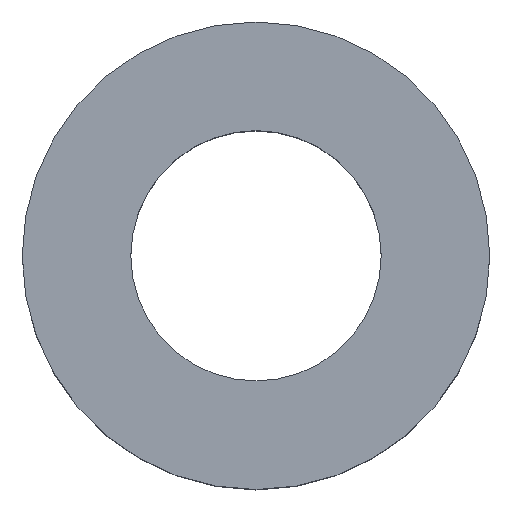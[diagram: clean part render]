
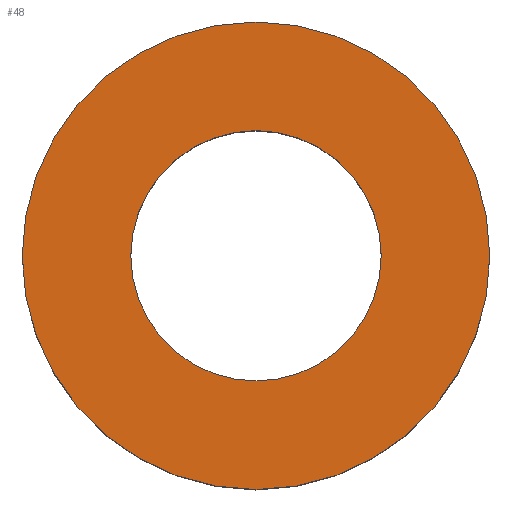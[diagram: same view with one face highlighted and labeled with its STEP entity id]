
A CAD part, top view. The second image highlights one B-rep face of the part: STEP entity #48.
In plain terms, the highlighted planar face has unit normal (0, 0, 1).
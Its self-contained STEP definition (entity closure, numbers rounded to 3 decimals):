
#48=ADVANCED_FACE('NONE',(#57,#58),#59,.T.);
#57=FACE_OUTER_BOUND('',#71,.T.);
#58=FACE_BOUND('',#72,.T.);
#59=PLANE('',#73);
#71=EDGE_LOOP('',(#95,#96));
#72=EDGE_LOOP('',(#97,#98));
#73=AXIS2_PLACEMENT_3D('',#99,#100,#101);
#95=ORIENTED_EDGE('',*,*,#131,.T.);
#96=ORIENTED_EDGE('',*,*,#127,.T.);
#97=ORIENTED_EDGE('',*,*,#123,.F.);
#98=ORIENTED_EDGE('',*,*,#132,.F.);
#99=CARTESIAN_POINT('',(0.0,0.0,6.4));
#100=DIRECTION('',(0.0,0.0,1.0));
#101=DIRECTION('',(1.0,0.0,0.0));
#123=EDGE_CURVE('NONE',#135,#136,#137,.T.);
#127=EDGE_CURVE('NONE',#143,#144,#145,.T.);
#131=EDGE_CURVE('NONE',#144,#143,#151,.T.);
#132=EDGE_CURVE('NONE',#136,#135,#152,.T.);
#135=VERTEX_POINT('NONE',#155);
#136=VERTEX_POINT('NONE',#156);
#137=CIRCLE('',#157,3.4);
#143=VERTEX_POINT('NONE',#165);
#144=VERTEX_POINT('NONE',#166);
#145=CIRCLE('',#167,6.35);
#151=CIRCLE('',#175,6.35);
#152=CIRCLE('',#176,3.4);
#155=CARTESIAN_POINT('',(-3.4,0.0,6.4));
#156=CARTESIAN_POINT('',(3.4,0.,6.4));
#157=AXIS2_PLACEMENT_3D('',#179,#180,#181);
#165=CARTESIAN_POINT('',(6.35,0.,6.4));
#166=CARTESIAN_POINT('',(-6.35,0.0,6.4));
#167=AXIS2_PLACEMENT_3D('',#187,#188,#189);
#175=AXIS2_PLACEMENT_3D('',#195,#196,#197);
#176=AXIS2_PLACEMENT_3D('',#198,#199,#200);
#179=CARTESIAN_POINT('',(0.0,0.0,6.4));
#180=DIRECTION('',(0.0,0.0,1.0));
#181=DIRECTION('',(1.0,0.0,0.0));
#187=CARTESIAN_POINT('',(0.0,0.0,6.4));
#188=DIRECTION('',(0.0,0.0,1.0));
#189=DIRECTION('',(1.0,0.0,0.0));
#195=CARTESIAN_POINT('',(0.0,0.0,6.4));
#196=DIRECTION('',(0.0,0.0,1.0));
#197=DIRECTION('',(1.0,0.0,0.0));
#198=CARTESIAN_POINT('',(0.0,0.0,6.4));
#199=DIRECTION('',(0.0,0.0,1.0));
#200=DIRECTION('',(1.0,0.0,0.0));
